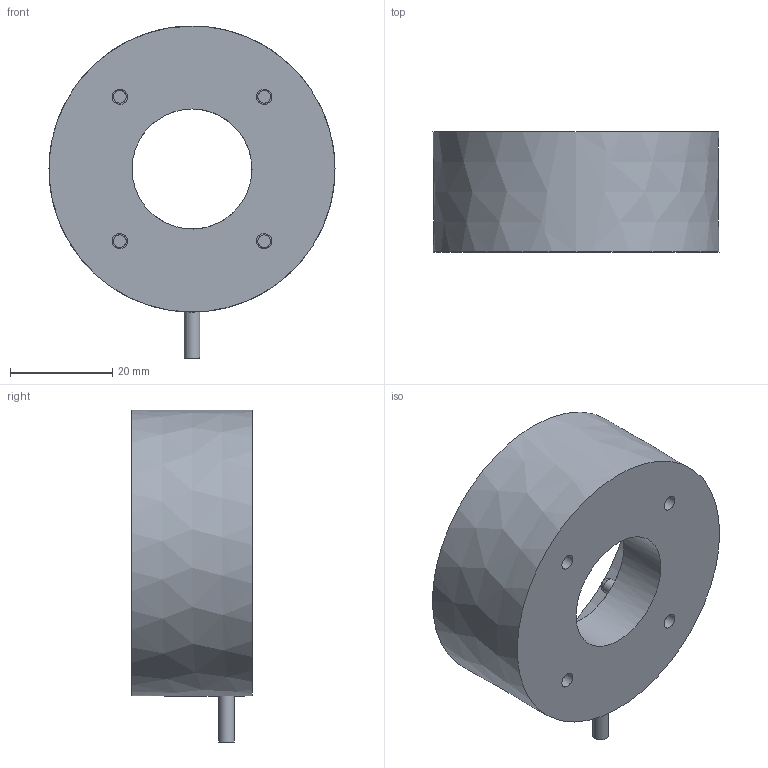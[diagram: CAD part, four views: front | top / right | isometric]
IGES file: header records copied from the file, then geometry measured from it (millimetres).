
Global section: file name: 153-00727_LR 56 x-24-KFL5; native system: Autodesk Inventor 2018; preprocessor: unknown; author: ss; date: 20180725.084852; units: millimetre
Bounding box: 56 x 23.5 x 65 mm (x, y, z)
Volume: 23874.9 mm3; surface area: 12608 mm2
Topology: 8 solids, 8 shells, 113 faces, 273 edges, 212 vertices
Faces by surface type: bspline 113
